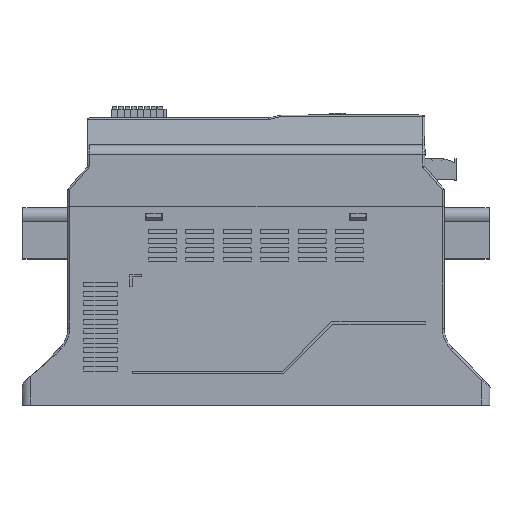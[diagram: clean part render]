
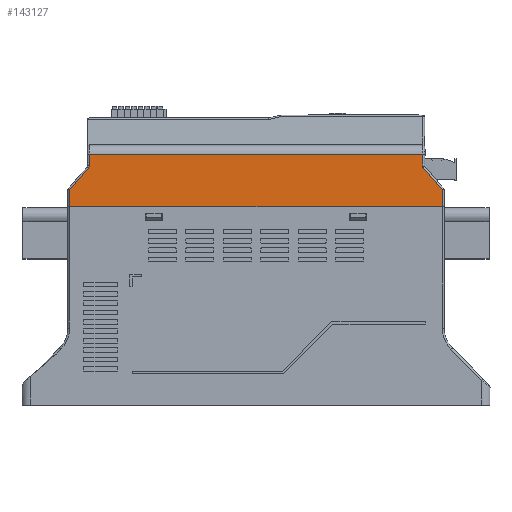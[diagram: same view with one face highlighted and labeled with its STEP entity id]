
A CAD part, top view. The second image highlights one B-rep face of the part: STEP entity #143127.
In plain terms, the highlighted planar face has unit normal (0, 0, 1).
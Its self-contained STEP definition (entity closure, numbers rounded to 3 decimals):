
#140920 = VERTEX_POINT('',#140921);
#140921 = CARTESIAN_POINT('',(-99.5,-25.5,105.));
#140928 = EDGE_CURVE('',#140929,#140920,#140931,.T.);
#140929 = VERTEX_POINT('',#140930);
#140930 = CARTESIAN_POINT('',(99.5,-25.5,105.));
#140931 = LINE('',#140932,#140933);
#140932 = CARTESIAN_POINT('',(99.5,-25.5,105.));
#140933 = VECTOR('',#140934,1.);
#140934 = DIRECTION('',(-1.,0.,0.));
#143057 = VERTEX_POINT('',#143058);
#143058 = CARTESIAN_POINT('',(89.11,-4.373,105.));
#143068 = EDGE_CURVE('',#143057,#143069,#143071,.T.);
#143069 = VERTEX_POINT('',#143070);
#143070 = CARTESIAN_POINT('',(99.5,-16.373,105.));
#143071 = LINE('',#143072,#143073);
#143072 = CARTESIAN_POINT('',(89.11,-4.373,105.));
#143073 = VECTOR('',#143074,1.);
#143074 = DIRECTION('',(0.655,-0.756,0.));
#143116 = EDGE_CURVE('',#140929,#143069,#143117,.T.);
#143117 = LINE('',#143118,#143119);
#143118 = CARTESIAN_POINT('',(99.5,-25.5,105.));
#143119 = VECTOR('',#143120,1.);
#143120 = DIRECTION('',(0.,1.,0.));
#143127 = ADVANCED_FACE('',(#143128),#143180,.T.);
#143128 = FACE_BOUND('',#143129,.F.);
#143129 = EDGE_LOOP('',(#143130,#143138,#143146,#143155,#143163,#143171,
    #143177,#143178,#143179));
#143130 = ORIENTED_EDGE('',*,*,#143131,.F.);
#143131 = EDGE_CURVE('',#143132,#140920,#143134,.T.);
#143132 = VERTEX_POINT('',#143133);
#143133 = CARTESIAN_POINT('',(-99.5,-16.373,105.));
#143134 = LINE('',#143135,#143136);
#143135 = CARTESIAN_POINT('',(-99.5,-16.373,105.));
#143136 = VECTOR('',#143137,1.);
#143137 = DIRECTION('',(0.,-1.,0.));
#143138 = ORIENTED_EDGE('',*,*,#143139,.T.);
#143139 = EDGE_CURVE('',#143132,#143140,#143142,.T.);
#143140 = VERTEX_POINT('',#143141);
#143141 = CARTESIAN_POINT('',(-89.598,-4.936,105.));
#143142 = LINE('',#143143,#143144);
#143143 = CARTESIAN_POINT('',(-99.5,-16.373,105.));
#143144 = VECTOR('',#143145,1.);
#143145 = DIRECTION('',(0.655,0.756,0.));
#143146 = ORIENTED_EDGE('',*,*,#143147,.T.);
#143147 = EDGE_CURVE('',#143140,#143148,#143150,.T.);
#143148 = VERTEX_POINT('',#143149);
#143149 = CARTESIAN_POINT('',(-89.11,-3.627,105.));
#143150 = CIRCLE('',#143151,2.);
#143151 = AXIS2_PLACEMENT_3D('',#143152,#143153,#143154);
#143152 = CARTESIAN_POINT('',(-91.11,-3.627,105.));
#143153 = DIRECTION('',(0.,0.,1.));
#143154 = DIRECTION('',(0.756,-0.655,0.));
#143155 = ORIENTED_EDGE('',*,*,#143156,.F.);
#143156 = EDGE_CURVE('',#143157,#143148,#143159,.T.);
#143157 = VERTEX_POINT('',#143158);
#143158 = CARTESIAN_POINT('',(-89.11,2.5,105.));
#143159 = LINE('',#143160,#143161);
#143160 = CARTESIAN_POINT('',(-89.11,2.5,105.));
#143161 = VECTOR('',#143162,1.);
#143162 = DIRECTION('',(0.,-1.,0.));
#143163 = ORIENTED_EDGE('',*,*,#143164,.F.);
#143164 = EDGE_CURVE('',#143165,#143157,#143167,.T.);
#143165 = VERTEX_POINT('',#143166);
#143166 = CARTESIAN_POINT('',(89.11,2.5,105.));
#143167 = LINE('',#143168,#143169);
#143168 = CARTESIAN_POINT('',(89.11,2.5,105.));
#143169 = VECTOR('',#143170,1.);
#143170 = DIRECTION('',(-1.,0.,0.));
#143171 = ORIENTED_EDGE('',*,*,#143172,.F.);
#143172 = EDGE_CURVE('',#143057,#143165,#143173,.T.);
#143173 = LINE('',#143174,#143175);
#143174 = CARTESIAN_POINT('',(89.11,-4.373,105.));
#143175 = VECTOR('',#143176,1.);
#143176 = DIRECTION('',(0.,1.,0.));
#143177 = ORIENTED_EDGE('',*,*,#143068,.T.);
#143178 = ORIENTED_EDGE('',*,*,#143116,.F.);
#143179 = ORIENTED_EDGE('',*,*,#140928,.T.);
#143180 = PLANE('',#143181);
#143181 = AXIS2_PLACEMENT_3D('',#143182,#143183,#143184);
#143182 = CARTESIAN_POINT('',(0.,0.,105.));
#143183 = DIRECTION('',(0.,0.,1.));
#143184 = DIRECTION('',(1.,0.,-0.));
